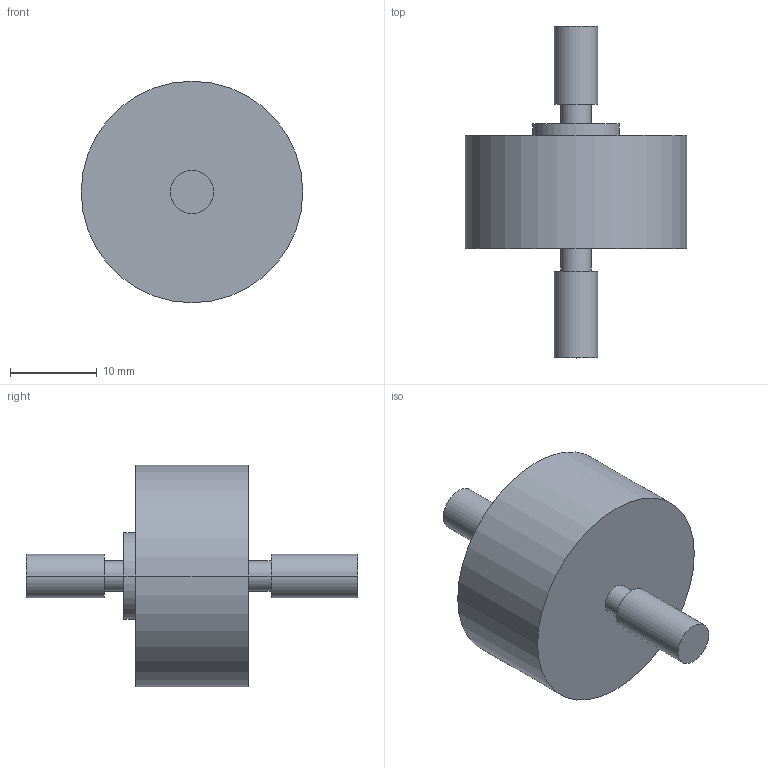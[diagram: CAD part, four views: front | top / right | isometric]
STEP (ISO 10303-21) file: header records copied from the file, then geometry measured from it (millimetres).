
FILE_DESCRIPTION (( 'STEP AP203' ), '1' );
FILE_NAME ('reb7-10kg.STEP', '2017-12-01T06:48:05', ( '' ), ( '' ), 'SwSTEP 2.0', 'SolidWorks 2016', '' );
FILE_SCHEMA (( 'CONFIG_CONTROL_DESIGN' ));
Length unit declared in the file: millimetre
Products named in the file (1): reb7-10kg
Bounding box: 25.5 x 38.2 x 25.5 mm (x, y, z)
Volume: 7164.9 mm3; surface area: 2497.1 mm2
Topology: 1 solids, 1 shells, 19 faces, 36 edges, 24 vertices
Faces by surface type: cylinder 12, plane 7
Entity records: 571 total; most frequent: DIRECTION 100, CARTESIAN_POINT 80, ORIENTED_EDGE 72, AXIS2_PLACEMENT_3D 44, EDGE_CURVE 36, CIRCLE 24, EDGE_LOOP 24, VERTEX_POINT 24
